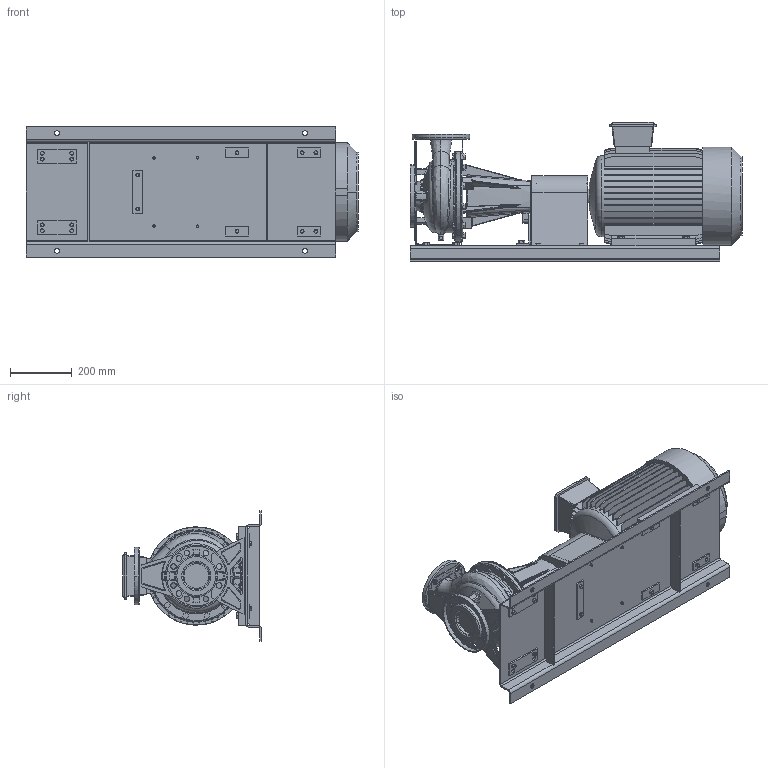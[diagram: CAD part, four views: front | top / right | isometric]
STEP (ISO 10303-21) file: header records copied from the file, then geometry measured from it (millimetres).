
FILE_DESCRIPTION((''),'2;1');
FILE_NAME('3P_65-160_15_IE3_ASM','2019-08-26T',('rosa'),('"Ebara Pumps Europe +39.444.706811"'),'PRO/ENGINEER BY PARAMETRIC TECHNOLOGY CORPORATION, 2017170','PRO/ENGINEER BY PARAMETRIC TECHNOLOGY CORPORATION, 2017170','');
FILE_SCHEMA(('AUTOMOTIVE_DESIGN { 1 0 10303 214 1 1 1 1 }'));
Products named in the file (22): CORPO_65-160_AF0; ASP_65-160; FLANGIA_DIN_80_8_FORI; MAND_65-160; FLANGIA_DIN_65; BASE_3M_65-160; CORPO_SALDATO_65-160_ASM; 80619; 80617; SOSTEGNO_SUPPORTO_3P_72031; 367617005; M12X30; 72165; GIUNTO_3P_24X42; COPRIGIUNTO_73023; VITE_8-8_TEIF_UNI5739-M08X012; LAFERT_MEC160M_B3_IE3; VITE_8-8_TEIF_UNI5739-M12X040; VITE_8-8_TEIF_UNI5739-M12X020; 360610085; VITE_8-8_TEIF_UNI5739-M12X025; 3P_65-160_15_IE3_ASM
Assembly tree (32 placements, depth 3):
  3P_65-160_15_IE3_ASM
    CORPO_SALDATO_65-160_ASM
      CORPO_65-160_AF0
      ASP_65-160
      FLANGIA_DIN_80_8_FORI
      MAND_65-160
      FLANGIA_DIN_65
      BASE_3M_65-160
    80619
    80617
    SOSTEGNO_SUPPORTO_3P_72031
    367617005
    M12X30
    72165
    GIUNTO_3P_24X42
    COPRIGIUNTO_73023
    VITE_8-8_TEIF_UNI5739-M08X012  x4
    LAFERT_MEC160M_B3_IE3
    VITE_8-8_TEIF_UNI5739-M12X040  x4
    VITE_8-8_TEIF_UNI5739-M12X020  x4
    360610085  x2
    VITE_8-8_TEIF_UNI5739-M12X025  x2
Bounding box: 1071 x 448 x 420 mm (x, y, z)
Volume: 45263064.2 mm3; surface area: 3820479.8 mm2
Topology: 36 solids, 50 shells, 2002 faces, 5065 edges, 3265 vertices
Faces by surface type: plane 1034, cylinder 538, cone 177, bspline 131, torus 108, sphere 12, extrusion 2
Entity records: 80635 total; most frequent: CARTESIAN_POINT 19852, ORIENTED_EDGE 9130, DIRECTION 9022, PRESENTATION_STYLE_ASSIGNMENT 4602, STYLED_ITEM 4602, CURVE_STYLE 4573, EDGE_CURVE 4573, AXIS2_PLACEMENT_3D 3192
